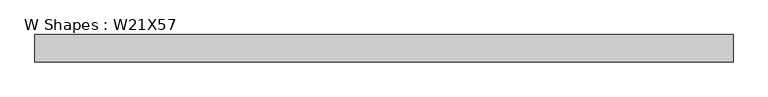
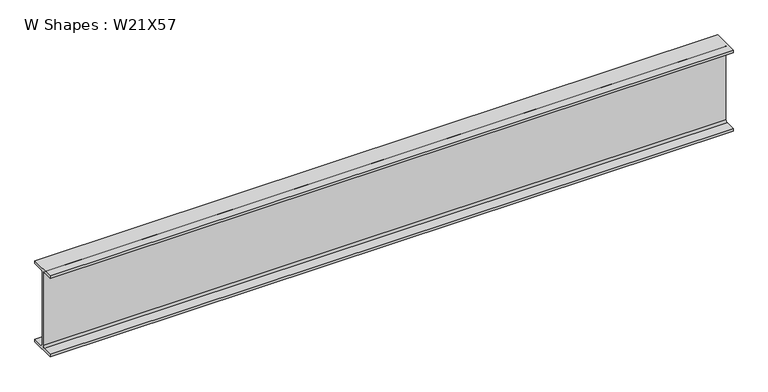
"""IFC4 building model written with IfcOpenShell, lengths in millimetres: beam geometry, W Shapes : W21X57."""

from ifc_helpers import new_model, si_unit, point, frame, frame_2d, origin, place, context, project, spatial, polyline, circle_curve, trimmed, segment, composite_curve, outline, extrude, source, transform, mapped, element, save


def w_shapes_w21x57_38f1f711(model_context):
    return source(origin(), model_context, "Body", "SweptSolid", [
        extrude(outline(composite_curve([segment(polyline([(83.312, -251.46), (83.312, -267.97), (-83.312, -267.97), (-83.312, -251.46), (-17.8435, -251.46)]), True, "CONTINUOUS"), segment(trimmed(circle_curve(frame_2d((-17.8435, -238.76)), 12.7), [point((-17.8435, -251.46))], [point((-5.1435, -238.76))], True, "CARTESIAN"), True, "CONTINUOUS"), segment(polyline([(-5.1435, -238.76), (-5.1435, 238.76)]), True, "CONTINUOUS"), segment(trimmed(circle_curve(frame_2d((-17.8435, 238.76)), 12.7), [point((-5.1435, 238.76))], [point((-17.8435, 251.46))], True, "CARTESIAN"), True, "CONTINUOUS"), segment(polyline([(-17.8435, 251.46), (-83.312, 251.46), (-83.312, 267.97), (83.312, 267.97), (83.312, 251.46), (17.8435, 251.46)]), True, "CONTINUOUS"), segment(trimmed(circle_curve(frame_2d((17.8435, 238.76)), 12.7), [point((17.8435, 251.46))], [point((5.1435, 238.76))], True, "CARTESIAN"), True, "CONTINUOUS"), segment(polyline([(5.1435, 238.76), (5.1435, -238.76)]), True, "CONTINUOUS"), segment(trimmed(circle_curve(frame_2d((17.8435, -238.76)), 12.7), [point((5.1435, -238.76))], [point((17.8435, -251.46))], True, "CARTESIAN"), True, "CONTINUOUS"), segment(polyline([(17.8435, -251.46), (83.312, -251.46)]), True, "CONTINUOUS")], self_intersect=False)), frame((-2174.339694, 0.0, 0.0), z_axis=(1.0, 0.0, 0.0), x_axis=(0.0, 1.0, 0.0)), (0.0, 0.0, 1.0), 4273.8568363),
    ])


if __name__ == "__main__":
    model = new_model("IFC4")
    model_context = context("Model", 3, world=origin())
    ifc_project = project(units=[si_unit("LENGTHUNIT", "METRE", prefix="MILLI")], contexts=[model_context])
    site = spatial("IfcSite", under=ifc_project)
    building = spatial("IfcBuilding", under=site)
    placement = place(None, origin())
    w_shapes_w21x57_shape = w_shapes_w21x57_38f1f711(model_context)
    element("IfcBeam", 1, ObjectType="W Shapes : W21X57", at=placement, inside=building, context=model_context, shape_type="MappedRepresentation", body=[
        mapped(w_shapes_w21x57_shape, transform((0.0, 0.0, 0.0), x_axis=(1.0, 0.0, 0.0), y_axis=(0.0, 1.0, 0.0), z_axis=(0.0, 0.0, 1.0))),
    ])
    save(model, "model.ifc")
